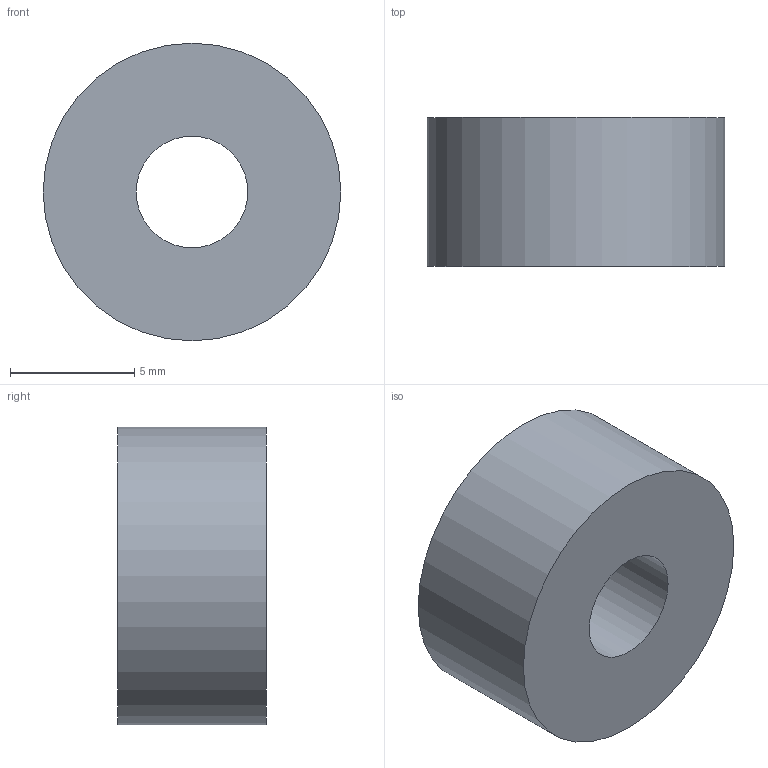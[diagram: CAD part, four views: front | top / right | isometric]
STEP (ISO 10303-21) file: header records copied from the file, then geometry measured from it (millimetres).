
FILE_DESCRIPTION(/* description */ (''),/* implementation_level */ '2;1');
FILE_NAME(/* name */ 'D12-H6-hole4_5.stp',/* time_stamp */ '2026-04-13T15:00:36+08:00',/* author */ ('lbx20'),/* organization */ (''),/* preprocessor_version */ 'ST-DEVELOPER v20.1',/* originating_system */ 'Autodesk Inventor 2026',/* authorisation */ '');
FILE_SCHEMA (('AUTOMOTIVE_DESIGN { 1 0 10303 214 3 1 1 }'));
Length unit declared in the file: millimetre
Products named in the file (1): D12-H4_4-hole4_5
Bounding box: 12 x 6 x 12 mm (x, y, z)
Volume: 583.2 mm3; surface area: 505.4 mm2
Topology: 1 solids, 1 shells, 4 faces, 6 edges, 4 vertices
Faces by surface type: cylinder 2, plane 2
Full cylindrical faces by diameter (mm): 4.5 x1, 12 x1
Entity records: 141 total; most frequent: DIRECTION 20, CARTESIAN_POINT 15, ORIENTED_EDGE 12, AXIS2_PLACEMENT_3D 9, EDGE_LOOP 6, EDGE_CURVE 6, FACE_OUTER_BOUND 4, CIRCLE 4
